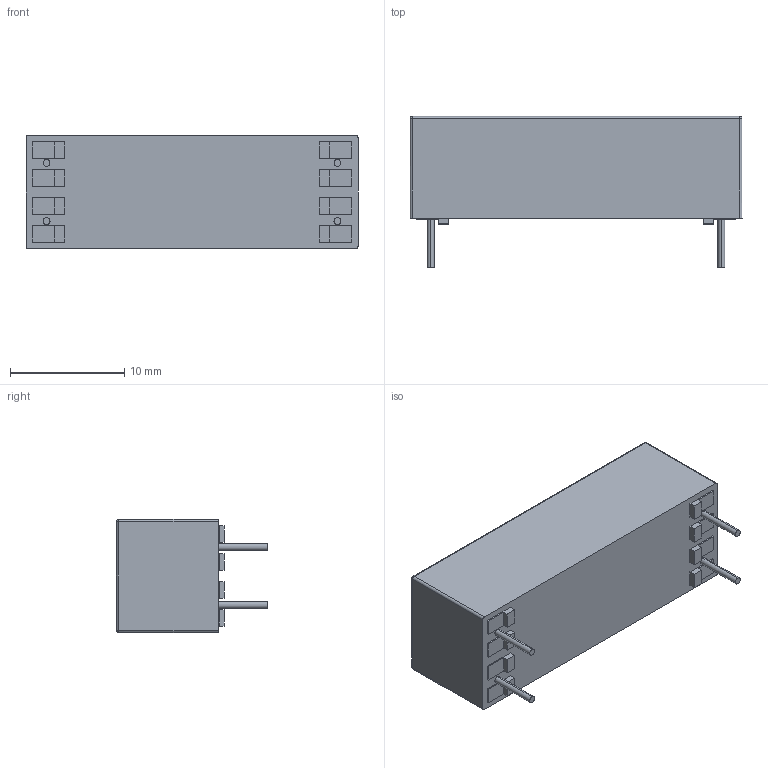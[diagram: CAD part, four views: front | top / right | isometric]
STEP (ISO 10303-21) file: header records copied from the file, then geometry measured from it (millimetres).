
FILE_DESCRIPTION (( 'STEP AP203' ), '1' );
FILE_NAME ('80-1-A-HV.STEP', '2010-06-29T15:14:27', ( ' ' ), ( '' ), 'SwSTEP 2.0', 'SolidWorks 2009', '' );
FILE_SCHEMA (( 'CONFIG_CONTROL_DESIGN' ));
Length unit declared in the file: millimetre
Products named in the file (1): 80-1-A-HV
Bounding box: 29 x 13.2 x 9.9 mm (x, y, z)
Volume: 2562.5 mm3; surface area: 1310.2 mm2
Topology: 1 solids, 1 shells, 710 faces, 1873 edges, 1240 vertices
Faces by surface type: plane 457, bspline 233, cylinder 16, sphere 4
Entity records: 34268 total; most frequent: CARTESIAN_POINT 18217, ORIENTED_EDGE 3738, DIRECTION 2383, EDGE_CURVE 1869, VECTOR 1371, LINE 1371, VERTEX_POINT 1240, EDGE_LOOP 789
